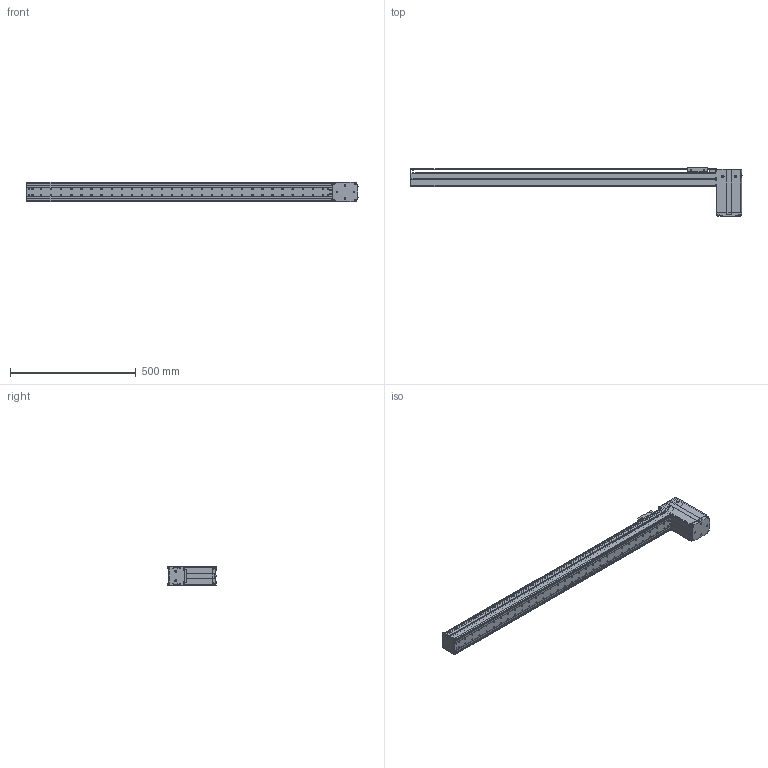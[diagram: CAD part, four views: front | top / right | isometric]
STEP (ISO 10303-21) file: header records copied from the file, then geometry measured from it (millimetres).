
FILE_DESCRIPTION((''),'2;1');
FILE_NAME('BE10_-BU-S_N-A5_IGS_PRT','2017-06-18T',(' '),(''),'PRO/ENGINEER BY PARAMETRIC TECHNOLOGY CORPORATION, 2015030','PRO/ENGINEER BY PARAMETRIC TECHNOLOGY CORPORATION, 2015030','');
FILE_SCHEMA(('CONFIG_CONTROL_DESIGN'));
Products named in the file (1): BE10_-BU-S_N-A5_IGS_PRT
Bounding box: 1320.8 x 192.72 x 78 mm (x, y, z)
Volume: 1550451.8 mm3; surface area: 1113813.7 mm2
Topology: 3 solids, 144 shells, 2009 faces, 5473 edges, 3619 vertices
Faces by surface type: plane 928, cylinder 920, cone 119, sphere 21, torus 19, bspline 2
Entity records: 65236 total; most frequent: CARTESIAN_POINT 13228, DIRECTION 11083, ORIENTED_EDGE 10334, EDGE_CURVE 5419, AXIS2_PLACEMENT_3D 3989, VERTEX_POINT 3619, VECTOR 3105, LINE 3105
